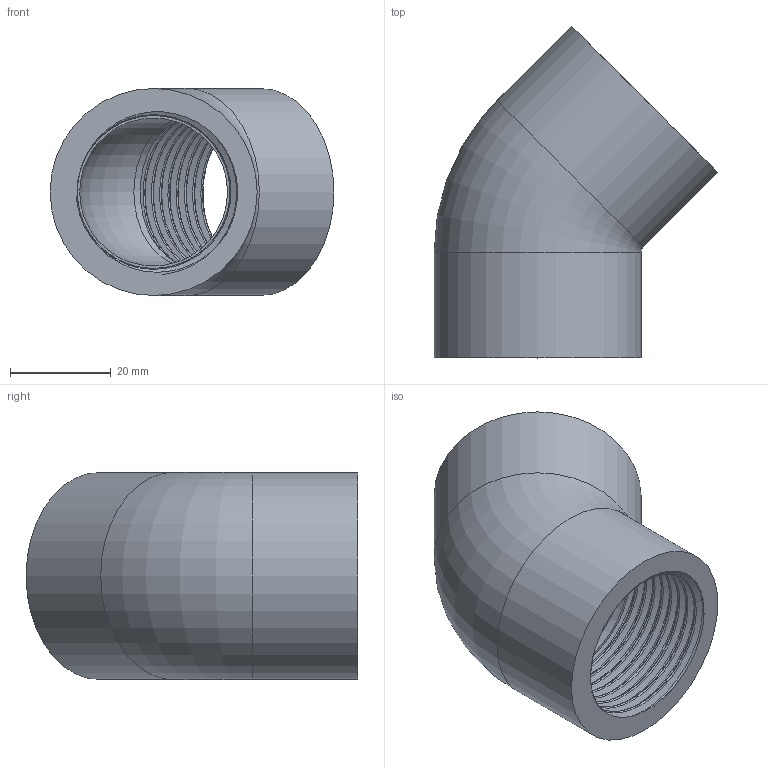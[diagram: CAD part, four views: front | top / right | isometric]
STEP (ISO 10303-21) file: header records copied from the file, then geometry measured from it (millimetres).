
FILE_DESCRIPTION(/* description */ ('PVC gomito a 45° incollaggio metrico'),/* implementation_level */ '2;1');
FILE_NAME(/* name */ 'C:\Users\POLYPIPE\Desktop\DATASET INVENTOR\LIBRERIA EFFAST\RACCORDI 3DxWEB\RER\3D_RERGYE\3D_RERGYE032D.stp',/* time_stamp */ '2018-01-19T16:34:02+01:00',/* author */ ('POLYPIPE'),/* organization */ ('Polypipe Italia s.r.l.'),/* preprocessor_version */ 'ST-DEVELOPER v16.1',/* originating_system */ 'Autodesk Inventor 2016',/* authorisation */ '');
FILE_SCHEMA (('CONFIG_CONTROL_DESIGN'));
Length unit declared in the file: millimetre
Products named in the file (1): 3D_RERGYE
Bounding box: 56.21 x 65.71 x 41 mm (x, y, z)
Volume: 33420.6 mm3; surface area: 17814.2 mm2
Topology: 1 solids, 1 shells, 24 faces, 50 edges, 30 vertices
Faces by surface type: bspline 10, cylinder 6, plane 6, torus 2
Full cylindrical faces by diameter (mm): 29.291 x2, 30.291 x2, 41 x2
Entity records: 7322 total; most frequent: CARTESIAN_POINT 6867, ORIENTED_EDGE 88, DIRECTION 68, EDGE_CURVE 44, EDGE_LOOP 34, AXIS2_PLACEMENT_3D 31, VERTEX_POINT 30, FACE_OUTER_BOUND 24
